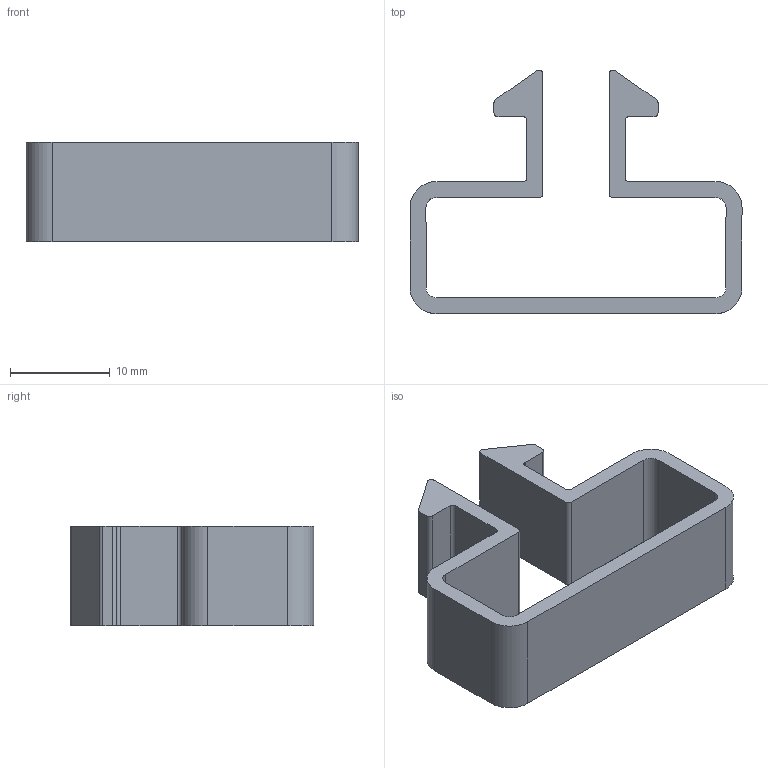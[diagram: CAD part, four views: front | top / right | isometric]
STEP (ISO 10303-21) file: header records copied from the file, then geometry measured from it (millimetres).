
FILE_DESCRIPTION (( 'STEP AP214' ), '1' );
FILE_NAME ('Clips S10-10x30.STEP', '2023-05-26T08:43:17', ( '' ), ( '' ), 'SwSTEP 2.0', 'SolidWorks 2022', '' );
FILE_SCHEMA (( 'AUTOMOTIVE_DESIGN' ));
Length unit declared in the file: millimetre
Products named in the file (1): Clips S10-10x30
Bounding box: 33.2 x 24.33 x 10 mm (x, y, z)
Volume: 1756 mm3; surface area: 2435.1 mm2
Topology: 1 solids, 1 shells, 42 faces, 120 edges, 80 vertices
Faces by surface type: plane 22, cylinder 20
Entity records: 1418 total; most frequent: DIRECTION 246, CARTESIAN_POINT 243, ORIENTED_EDGE 240, EDGE_CURVE 120, AXIS2_PLACEMENT_3D 83, LINE 80, VERTEX_POINT 80, VECTOR 80
